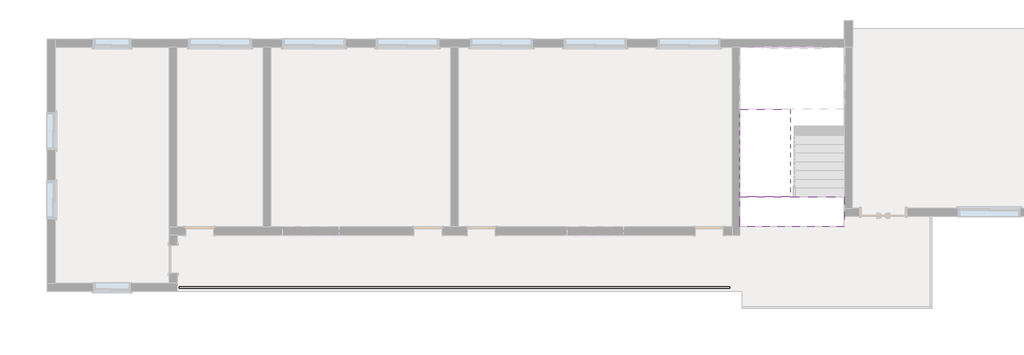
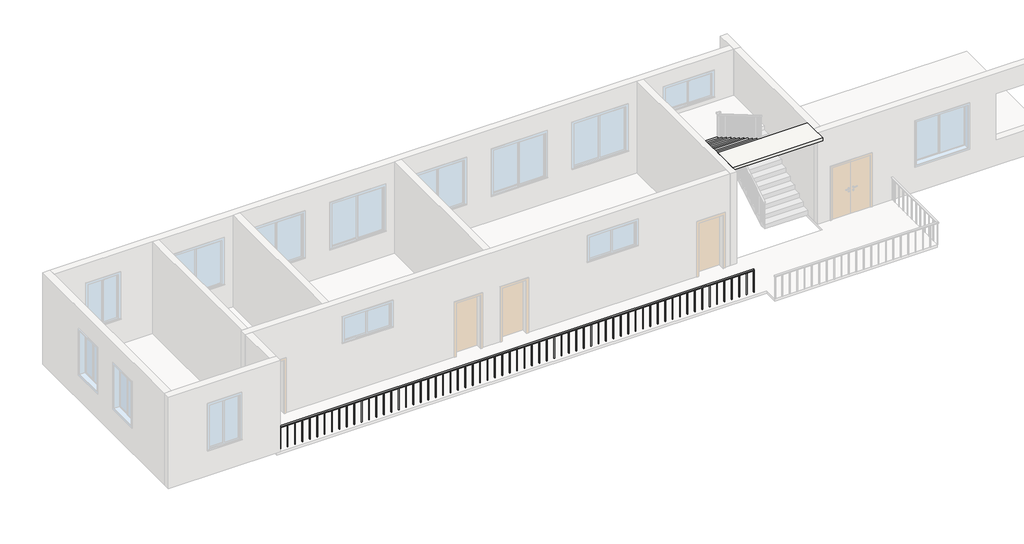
# One storey, part 2 of 3: 1 railing, 1 slab, 1 stair flight.
"""IFC4 building model written with IfcOpenShell, lengths in millimetres."""

from ifc_helpers import new_model, si_unit, frame, origin, place, context, project, spatial, polyline, outline, extrude, faceted_brep, element, save

model = new_model("IFC4")

# Units and contexts
model_context = context("Model", 3, world=origin())
ifc_project = project(units=[si_unit("LENGTHUNIT", "METRE", prefix="MILLI")], contexts=[model_context])

# Site, building, storey
site = spatial("IfcSite", under=ifc_project)
building = spatial("IfcBuilding", under=site)
storey = spatial("IfcBuildingStorey", under=building, Name="标高 2", Elevation=3600.0)

# Railing
placement = place(None, origin())
element("IfcRailing", 1, ObjectType="900mm", at=placement, inside=storey, context=model_context, shape_type="SweptSolid", body=[
    extrude(outline(polyline([(-4380.3834175, -6175.9601487), (-4380.3834175, -6125.9601487), (13219.6165825, -6125.9601487), (13219.6165825, -6175.9601487), (-4380.3834175, -6175.9601487)])), frame((0.0, 0.0, 4450.0), z_axis=(0.0, 0.0, 1.0), x_axis=(1.0, 0.0, 0.0)), (0.0, 0.0, 1.0), 50.0),
    extrude(outline(polyline([(12934.6165825, -6160.9601487), (12934.6165825, -6140.9601487), (12954.6165825, -6140.9601487), (12954.6165825, -6160.9601487), (12934.6165825, -6160.9601487)])), frame((0.0, 0.0, 3600.0), z_axis=(0.0, 0.0, 1.0), x_axis=(1.0, 0.0, 0.0)), (0.0, 0.0, 1.0), 850.0),
    extrude(outline(polyline([(12659.6165825, -6160.9601487), (12659.6165825, -6140.9601487), (12679.6165825, -6140.9601487), (12679.6165825, -6160.9601487), (12659.6165825, -6160.9601487)])), frame((0.0, 0.0, 3600.0), z_axis=(0.0, 0.0, 1.0), x_axis=(1.0, 0.0, 0.0)), (0.0, 0.0, 1.0), 850.0),
    extrude(outline(polyline([(12384.6165825, -6160.9601487), (12384.6165825, -6140.9601487), (12404.6165825, -6140.9601487), (12404.6165825, -6160.9601487), (12384.6165825, -6160.9601487)])), frame((0.0, 0.0, 3600.0), z_axis=(0.0, 0.0, 1.0), x_axis=(1.0, 0.0, 0.0)), (0.0, 0.0, 1.0), 850.0),
    extrude(outline(polyline([(12109.6165825, -6160.9601487), (12109.6165825, -6140.9601487), (12129.6165825, -6140.9601487), (12129.6165825, -6160.9601487), (12109.6165825, -6160.9601487)])), frame((0.0, 0.0, 3600.0), z_axis=(0.0, 0.0, 1.0), x_axis=(1.0, 0.0, 0.0)), (0.0, 0.0, 1.0), 850.0),
    extrude(outline(polyline([(11834.6165825, -6160.9601487), (11834.6165825, -6140.9601487), (11854.6165825, -6140.9601487), (11854.6165825, -6160.9601487), (11834.6165825, -6160.9601487)])), frame((0.0, 0.0, 3600.0), z_axis=(0.0, 0.0, 1.0), x_axis=(1.0, 0.0, 0.0)), (0.0, 0.0, 1.0), 850.0),
    extrude(outline(polyline([(11559.6165825, -6160.9601487), (11559.6165825, -6140.9601487), (11579.6165825, -6140.9601487), (11579.6165825, -6160.9601487), (11559.6165825, -6160.9601487)])), frame((0.0, 0.0, 3600.0), z_axis=(0.0, 0.0, 1.0), x_axis=(1.0, 0.0, 0.0)), (0.0, 0.0, 1.0), 850.0),
    extrude(outline(polyline([(11284.6165825, -6160.9601487), (11284.6165825, -6140.9601487), (11304.6165825, -6140.9601487), (11304.6165825, -6160.9601487), (11284.6165825, -6160.9601487)])), frame((0.0, 0.0, 3600.0), z_axis=(0.0, 0.0, 1.0), x_axis=(1.0, 0.0, 0.0)), (0.0, 0.0, 1.0), 850.0),
    extrude(outline(polyline([(11009.6165825, -6160.9601487), (11009.6165825, -6140.9601487), (11029.6165825, -6140.9601487), (11029.6165825, -6160.9601487), (11009.6165825, -6160.9601487)])), frame((0.0, 0.0, 3600.0), z_axis=(0.0, 0.0, 1.0), x_axis=(1.0, 0.0, 0.0)), (0.0, 0.0, 1.0), 850.0),
    extrude(outline(polyline([(10734.6165825, -6160.9601487), (10734.6165825, -6140.9601487), (10754.6165825, -6140.9601487), (10754.6165825, -6160.9601487), (10734.6165825, -6160.9601487)])), frame((0.0, 0.0, 3600.0), z_axis=(0.0, 0.0, 1.0), x_axis=(1.0, 0.0, 0.0)), (0.0, 0.0, 1.0), 850.0),
    extrude(outline(polyline([(10459.6165825, -6160.9601487), (10459.6165825, -6140.9601487), (10479.6165825, -6140.9601487), (10479.6165825, -6160.9601487), (10459.6165825, -6160.9601487)])), frame((0.0, 0.0, 3600.0), z_axis=(0.0, 0.0, 1.0), x_axis=(1.0, 0.0, 0.0)), (0.0, 0.0, 1.0), 850.0),
    extrude(outline(polyline([(10184.6165825, -6160.9601487), (10184.6165825, -6140.9601487), (10204.6165825, -6140.9601487), (10204.6165825, -6160.9601487), (10184.6165825, -6160.9601487)])), frame((0.0, 0.0, 3600.0), z_axis=(0.0, 0.0, 1.0), x_axis=(1.0, 0.0, 0.0)), (0.0, 0.0, 1.0), 850.0),
    extrude(outline(polyline([(9909.6165825, -6160.9601487), (9909.6165825, -6140.9601487), (9929.6165825, -6140.9601487), (9929.6165825, -6160.9601487), (9909.6165825, -6160.9601487)])), frame((0.0, 0.0, 3600.0), z_axis=(0.0, 0.0, 1.0), x_axis=(1.0, 0.0, 0.0)), (0.0, 0.0, 1.0), 850.0),
    extrude(outline(polyline([(9634.6165825, -6160.9601487), (9634.6165825, -6140.9601487), (9654.6165825, -6140.9601487), (9654.6165825, -6160.9601487), (9634.6165825, -6160.9601487)])), frame((0.0, 0.0, 3600.0), z_axis=(0.0, 0.0, 1.0), x_axis=(1.0, 0.0, 0.0)), (0.0, 0.0, 1.0), 850.0),
    extrude(outline(polyline([(9359.6165825, -6160.9601487), (9359.6165825, -6140.9601487), (9379.6165825, -6140.9601487), (9379.6165825, -6160.9601487), (9359.6165825, -6160.9601487)])), frame((0.0, 0.0, 3600.0), z_axis=(0.0, 0.0, 1.0), x_axis=(1.0, 0.0, 0.0)), (0.0, 0.0, 1.0), 850.0),
    extrude(outline(polyline([(9084.6165825, -6160.9601487), (9084.6165825, -6140.9601487), (9104.6165825, -6140.9601487), (9104.6165825, -6160.9601487), (9084.6165825, -6160.9601487)])), frame((0.0, 0.0, 3600.0), z_axis=(0.0, 0.0, 1.0), x_axis=(1.0, 0.0, 0.0)), (0.0, 0.0, 1.0), 850.0),
    extrude(outline(polyline([(8809.6165825, -6160.9601487), (8809.6165825, -6140.9601487), (8829.6165825, -6140.9601487), (8829.6165825, -6160.9601487), (8809.6165825, -6160.9601487)])), frame((0.0, 0.0, 3600.0), z_axis=(0.0, 0.0, 1.0), x_axis=(1.0, 0.0, 0.0)), (0.0, 0.0, 1.0), 850.0),
    extrude(outline(polyline([(8534.6165825, -6160.9601487), (8534.6165825, -6140.9601487), (8554.6165825, -6140.9601487), (8554.6165825, -6160.9601487), (8534.6165825, -6160.9601487)])), frame((0.0, 0.0, 3600.0), z_axis=(0.0, 0.0, 1.0), x_axis=(1.0, 0.0, 0.0)), (0.0, 0.0, 1.0), 850.0),
    extrude(outline(polyline([(8259.6165825, -6160.9601487), (8259.6165825, -6140.9601487), (8279.6165825, -6140.9601487), (8279.6165825, -6160.9601487), (8259.6165825, -6160.9601487)])), frame((0.0, 0.0, 3600.0), z_axis=(0.0, 0.0, 1.0), x_axis=(1.0, 0.0, 0.0)), (0.0, 0.0, 1.0), 850.0),
    extrude(outline(polyline([(7984.6165825, -6160.9601487), (7984.6165825, -6140.9601487), (8004.6165825, -6140.9601487), (8004.6165825, -6160.9601487), (7984.6165825, -6160.9601487)])), frame((0.0, 0.0, 3600.0), z_axis=(0.0, 0.0, 1.0), x_axis=(1.0, 0.0, 0.0)), (0.0, 0.0, 1.0), 850.0),
    extrude(outline(polyline([(7709.6165825, -6160.9601487), (7709.6165825, -6140.9601487), (7729.6165825, -6140.9601487), (7729.6165825, -6160.9601487), (7709.6165825, -6160.9601487)])), frame((0.0, 0.0, 3600.0), z_axis=(0.0, 0.0, 1.0), x_axis=(1.0, 0.0, 0.0)), (0.0, 0.0, 1.0), 850.0),
    extrude(outline(polyline([(7434.6165825, -6160.9601487), (7434.6165825, -6140.9601487), (7454.6165825, -6140.9601487), (7454.6165825, -6160.9601487), (7434.6165825, -6160.9601487)])), frame((0.0, 0.0, 3600.0), z_axis=(0.0, 0.0, 1.0), x_axis=(1.0, 0.0, 0.0)), (0.0, 0.0, 1.0), 850.0),
    extrude(outline(polyline([(7159.6165825, -6160.9601487), (7159.6165825, -6140.9601487), (7179.6165825, -6140.9601487), (7179.6165825, -6160.9601487), (7159.6165825, -6160.9601487)])), frame((0.0, 0.0, 3600.0), z_axis=(0.0, 0.0, 1.0), x_axis=(1.0, 0.0, 0.0)), (0.0, 0.0, 1.0), 850.0),
    extrude(outline(polyline([(6884.6165825, -6160.9601487), (6884.6165825, -6140.9601487), (6904.6165825, -6140.9601487), (6904.6165825, -6160.9601487), (6884.6165825, -6160.9601487)])), frame((0.0, 0.0, 3600.0), z_axis=(0.0, 0.0, 1.0), x_axis=(1.0, 0.0, 0.0)), (0.0, 0.0, 1.0), 850.0),
    extrude(outline(polyline([(6609.6165825, -6160.9601487), (6609.6165825, -6140.9601487), (6629.6165825, -6140.9601487), (6629.6165825, -6160.9601487), (6609.6165825, -6160.9601487)])), frame((0.0, 0.0, 3600.0), z_axis=(0.0, 0.0, 1.0), x_axis=(1.0, 0.0, 0.0)), (0.0, 0.0, 1.0), 850.0),
    extrude(outline(polyline([(6334.6165825, -6160.9601487), (6334.6165825, -6140.9601487), (6354.6165825, -6140.9601487), (6354.6165825, -6160.9601487), (6334.6165825, -6160.9601487)])), frame((0.0, 0.0, 3600.0), z_axis=(0.0, 0.0, 1.0), x_axis=(1.0, 0.0, 0.0)), (0.0, 0.0, 1.0), 850.0),
    extrude(outline(polyline([(6059.6165825, -6160.9601487), (6059.6165825, -6140.9601487), (6079.6165825, -6140.9601487), (6079.6165825, -6160.9601487), (6059.6165825, -6160.9601487)])), frame((0.0, 0.0, 3600.0), z_axis=(0.0, 0.0, 1.0), x_axis=(1.0, 0.0, 0.0)), (0.0, 0.0, 1.0), 850.0),
    extrude(outline(polyline([(5784.6165825, -6160.9601487), (5784.6165825, -6140.9601487), (5804.6165825, -6140.9601487), (5804.6165825, -6160.9601487), (5784.6165825, -6160.9601487)])), frame((0.0, 0.0, 3600.0), z_axis=(0.0, 0.0, 1.0), x_axis=(1.0, 0.0, 0.0)), (0.0, 0.0, 1.0), 850.0),
    extrude(outline(polyline([(5509.6165825, -6160.9601487), (5509.6165825, -6140.9601487), (5529.6165825, -6140.9601487), (5529.6165825, -6160.9601487), (5509.6165825, -6160.9601487)])), frame((0.0, 0.0, 3600.0), z_axis=(0.0, 0.0, 1.0), x_axis=(1.0, 0.0, 0.0)), (0.0, 0.0, 1.0), 850.0),
    extrude(outline(polyline([(5234.6165825, -6160.9601487), (5234.6165825, -6140.9601487), (5254.6165825, -6140.9601487), (5254.6165825, -6160.9601487), (5234.6165825, -6160.9601487)])), frame((0.0, 0.0, 3600.0), z_axis=(0.0, 0.0, 1.0), x_axis=(1.0, 0.0, 0.0)), (0.0, 0.0, 1.0), 850.0),
    extrude(outline(polyline([(4959.6165825, -6160.9601487), (4959.6165825, -6140.9601487), (4979.6165825, -6140.9601487), (4979.6165825, -6160.9601487), (4959.6165825, -6160.9601487)])), frame((0.0, 0.0, 3600.0), z_axis=(0.0, 0.0, 1.0), x_axis=(1.0, 0.0, 0.0)), (0.0, 0.0, 1.0), 850.0),
    extrude(outline(polyline([(4684.6165825, -6160.9601487), (4684.6165825, -6140.9601487), (4704.6165825, -6140.9601487), (4704.6165825, -6160.9601487), (4684.6165825, -6160.9601487)])), frame((0.0, 0.0, 3600.0), z_axis=(0.0, 0.0, 1.0), x_axis=(1.0, 0.0, 0.0)), (0.0, 0.0, 1.0), 850.0),
    extrude(outline(polyline([(4409.6165825, -6160.9601487), (4409.6165825, -6140.9601487), (4429.6165825, -6140.9601487), (4429.6165825, -6160.9601487), (4409.6165825, -6160.9601487)])), frame((0.0, 0.0, 3600.0), z_axis=(0.0, 0.0, 1.0), x_axis=(1.0, 0.0, 0.0)), (0.0, 0.0, 1.0), 850.0),
    extrude(outline(polyline([(4134.6165825, -6160.9601487), (4134.6165825, -6140.9601487), (4154.6165825, -6140.9601487), (4154.6165825, -6160.9601487), (4134.6165825, -6160.9601487)])), frame((0.0, 0.0, 3600.0), z_axis=(0.0, 0.0, 1.0), x_axis=(1.0, 0.0, 0.0)), (0.0, 0.0, 1.0), 850.0),
    extrude(outline(polyline([(3859.6165825, -6160.9601487), (3859.6165825, -6140.9601487), (3879.6165825, -6140.9601487), (3879.6165825, -6160.9601487), (3859.6165825, -6160.9601487)])), frame((0.0, 0.0, 3600.0), z_axis=(0.0, 0.0, 1.0), x_axis=(1.0, 0.0, 0.0)), (0.0, 0.0, 1.0), 850.0),
    extrude(outline(polyline([(3584.6165825, -6160.9601487), (3584.6165825, -6140.9601487), (3604.6165825, -6140.9601487), (3604.6165825, -6160.9601487), (3584.6165825, -6160.9601487)])), frame((0.0, 0.0, 3600.0), z_axis=(0.0, 0.0, 1.0), x_axis=(1.0, 0.0, 0.0)), (0.0, 0.0, 1.0), 850.0),
    extrude(outline(polyline([(3309.6165825, -6160.9601487), (3309.6165825, -6140.9601487), (3329.6165825, -6140.9601487), (3329.6165825, -6160.9601487), (3309.6165825, -6160.9601487)])), frame((0.0, 0.0, 3600.0), z_axis=(0.0, 0.0, 1.0), x_axis=(1.0, 0.0, 0.0)), (0.0, 0.0, 1.0), 850.0),
    extrude(outline(polyline([(3034.6165825, -6160.9601487), (3034.6165825, -6140.9601487), (3054.6165825, -6140.9601487), (3054.6165825, -6160.9601487), (3034.6165825, -6160.9601487)])), frame((0.0, 0.0, 3600.0), z_axis=(0.0, 0.0, 1.0), x_axis=(1.0, 0.0, 0.0)), (0.0, 0.0, 1.0), 850.0),
    extrude(outline(polyline([(2759.6165825, -6160.9601487), (2759.6165825, -6140.9601487), (2779.6165825, -6140.9601487), (2779.6165825, -6160.9601487), (2759.6165825, -6160.9601487)])), frame((0.0, 0.0, 3600.0), z_axis=(0.0, 0.0, 1.0), x_axis=(1.0, 0.0, 0.0)), (0.0, 0.0, 1.0), 850.0),
    extrude(outline(polyline([(2484.6165825, -6160.9601487), (2484.6165825, -6140.9601487), (2504.6165825, -6140.9601487), (2504.6165825, -6160.9601487), (2484.6165825, -6160.9601487)])), frame((0.0, 0.0, 3600.0), z_axis=(0.0, 0.0, 1.0), x_axis=(1.0, 0.0, 0.0)), (0.0, 0.0, 1.0), 850.0),
    extrude(outline(polyline([(2209.6165825, -6160.9601487), (2209.6165825, -6140.9601487), (2229.6165825, -6140.9601487), (2229.6165825, -6160.9601487), (2209.6165825, -6160.9601487)])), frame((0.0, 0.0, 3600.0), z_axis=(0.0, 0.0, 1.0), x_axis=(1.0, 0.0, 0.0)), (0.0, 0.0, 1.0), 850.0),
    extrude(outline(polyline([(1934.6165825, -6160.9601487), (1934.6165825, -6140.9601487), (1954.6165825, -6140.9601487), (1954.6165825, -6160.9601487), (1934.6165825, -6160.9601487)])), frame((0.0, 0.0, 3600.0), z_axis=(0.0, 0.0, 1.0), x_axis=(1.0, 0.0, 0.0)), (0.0, 0.0, 1.0), 850.0),
    extrude(outline(polyline([(1659.6165825, -6160.9601487), (1659.6165825, -6140.9601487), (1679.6165825, -6140.9601487), (1679.6165825, -6160.9601487), (1659.6165825, -6160.9601487)])), frame((0.0, 0.0, 3600.0), z_axis=(0.0, 0.0, 1.0), x_axis=(1.0, 0.0, 0.0)), (0.0, 0.0, 1.0), 850.0),
    extrude(outline(polyline([(1384.6165825, -6160.9601487), (1384.6165825, -6140.9601487), (1404.6165825, -6140.9601487), (1404.6165825, -6160.9601487), (1384.6165825, -6160.9601487)])), frame((0.0, 0.0, 3600.0), z_axis=(0.0, 0.0, 1.0), x_axis=(1.0, 0.0, 0.0)), (0.0, 0.0, 1.0), 850.0),
    extrude(outline(polyline([(1109.6165825, -6160.9601487), (1109.6165825, -6140.9601487), (1129.6165825, -6140.9601487), (1129.6165825, -6160.9601487), (1109.6165825, -6160.9601487)])), frame((0.0, 0.0, 3600.0), z_axis=(0.0, 0.0, 1.0), x_axis=(1.0, 0.0, 0.0)), (0.0, 0.0, 1.0), 850.0),
    extrude(outline(polyline([(834.6165825, -6160.9601487), (834.6165825, -6140.9601487), (854.6165825, -6140.9601487), (854.6165825, -6160.9601487), (834.6165825, -6160.9601487)])), frame((0.0, 0.0, 3600.0), z_axis=(0.0, 0.0, 1.0), x_axis=(1.0, 0.0, 0.0)), (0.0, 0.0, 1.0), 850.0),
    extrude(outline(polyline([(559.6165825, -6160.9601487), (559.6165825, -6140.9601487), (579.6165825, -6140.9601487), (579.6165825, -6160.9601487), (559.6165825, -6160.9601487)])), frame((0.0, 0.0, 3600.0), z_axis=(0.0, 0.0, 1.0), x_axis=(1.0, 0.0, 0.0)), (0.0, 0.0, 1.0), 850.0),
    extrude(outline(polyline([(284.6165825, -6160.9601487), (284.6165825, -6140.9601487), (304.6165825, -6140.9601487), (304.6165825, -6160.9601487), (284.6165825, -6160.9601487)])), frame((0.0, 0.0, 3600.0), z_axis=(0.0, 0.0, 1.0), x_axis=(1.0, 0.0, 0.0)), (0.0, 0.0, 1.0), 850.0),
    extrude(outline(polyline([(9.6165825, -6160.9601487), (9.6165825, -6140.9601487), (29.6165825, -6140.9601487), (29.6165825, -6160.9601487), (9.6165825, -6160.9601487)])), frame((0.0, 0.0, 3600.0), z_axis=(0.0, 0.0, 1.0), x_axis=(1.0, 0.0, 0.0)), (0.0, 0.0, 1.0), 850.0),
    extrude(outline(polyline([(-265.3834175, -6160.9601487), (-265.3834175, -6140.9601487), (-245.3834175, -6140.9601487), (-245.3834175, -6160.9601487), (-265.3834175, -6160.9601487)])), frame((0.0, 0.0, 3600.0), z_axis=(0.0, 0.0, 1.0), x_axis=(1.0, 0.0, 0.0)), (0.0, 0.0, 1.0), 850.0),
    extrude(outline(polyline([(-540.3834175, -6160.9601487), (-540.3834175, -6140.9601487), (-520.3834175, -6140.9601487), (-520.3834175, -6160.9601487), (-540.3834175, -6160.9601487)])), frame((0.0, 0.0, 3600.0), z_axis=(0.0, 0.0, 1.0), x_axis=(1.0, 0.0, 0.0)), (0.0, 0.0, 1.0), 850.0),
    extrude(outline(polyline([(-815.3834175, -6160.9601487), (-815.3834175, -6140.9601487), (-795.3834175, -6140.9601487), (-795.3834175, -6160.9601487), (-815.3834175, -6160.9601487)])), frame((0.0, 0.0, 3600.0), z_axis=(0.0, 0.0, 1.0), x_axis=(1.0, 0.0, 0.0)), (0.0, 0.0, 1.0), 850.0),
    extrude(outline(polyline([(-1090.3834175, -6160.9601487), (-1090.3834175, -6140.9601487), (-1070.3834175, -6140.9601487), (-1070.3834175, -6160.9601487), (-1090.3834175, -6160.9601487)])), frame((0.0, 0.0, 3600.0), z_axis=(0.0, 0.0, 1.0), x_axis=(1.0, 0.0, 0.0)), (0.0, 0.0, 1.0), 850.0),
    extrude(outline(polyline([(-1365.3834175, -6160.9601487), (-1365.3834175, -6140.9601487), (-1345.3834175, -6140.9601487), (-1345.3834175, -6160.9601487), (-1365.3834175, -6160.9601487)])), frame((0.0, 0.0, 3600.0), z_axis=(0.0, 0.0, 1.0), x_axis=(1.0, 0.0, 0.0)), (0.0, 0.0, 1.0), 850.0),
    extrude(outline(polyline([(-1640.3834175, -6160.9601487), (-1640.3834175, -6140.9601487), (-1620.3834175, -6140.9601487), (-1620.3834175, -6160.9601487), (-1640.3834175, -6160.9601487)])), frame((0.0, 0.0, 3600.0), z_axis=(0.0, 0.0, 1.0), x_axis=(1.0, 0.0, 0.0)), (0.0, 0.0, 1.0), 850.0),
    extrude(outline(polyline([(-1915.3834175, -6160.9601487), (-1915.3834175, -6140.9601487), (-1895.3834175, -6140.9601487), (-1895.3834175, -6160.9601487), (-1915.3834175, -6160.9601487)])), frame((0.0, 0.0, 3600.0), z_axis=(0.0, 0.0, 1.0), x_axis=(1.0, 0.0, 0.0)), (0.0, 0.0, 1.0), 850.0),
    extrude(outline(polyline([(-2190.3834175, -6160.9601487), (-2190.3834175, -6140.9601487), (-2170.3834175, -6140.9601487), (-2170.3834175, -6160.9601487), (-2190.3834175, -6160.9601487)])), frame((0.0, 0.0, 3600.0), z_axis=(0.0, 0.0, 1.0), x_axis=(1.0, 0.0, 0.0)), (0.0, 0.0, 1.0), 850.0),
    extrude(outline(polyline([(-2465.3834175, -6160.9601487), (-2465.3834175, -6140.9601487), (-2445.3834175, -6140.9601487), (-2445.3834175, -6160.9601487), (-2465.3834175, -6160.9601487)])), frame((0.0, 0.0, 3600.0), z_axis=(0.0, 0.0, 1.0), x_axis=(1.0, 0.0, 0.0)), (0.0, 0.0, 1.0), 850.0),
    extrude(outline(polyline([(-2740.3834175, -6160.9601487), (-2740.3834175, -6140.9601487), (-2720.3834175, -6140.9601487), (-2720.3834175, -6160.9601487), (-2740.3834175, -6160.9601487)])), frame((0.0, 0.0, 3600.0), z_axis=(0.0, 0.0, 1.0), x_axis=(1.0, 0.0, 0.0)), (0.0, 0.0, 1.0), 850.0),
    extrude(outline(polyline([(-3015.3834175, -6160.9601487), (-3015.3834175, -6140.9601487), (-2995.3834175, -6140.9601487), (-2995.3834175, -6160.9601487), (-3015.3834175, -6160.9601487)])), frame((0.0, 0.0, 3600.0), z_axis=(0.0, 0.0, 1.0), x_axis=(1.0, 0.0, 0.0)), (0.0, 0.0, 1.0), 850.0),
    extrude(outline(polyline([(-3290.3834175, -6160.9601487), (-3290.3834175, -6140.9601487), (-3270.3834175, -6140.9601487), (-3270.3834175, -6160.9601487), (-3290.3834175, -6160.9601487)])), frame((0.0, 0.0, 3600.0), z_axis=(0.0, 0.0, 1.0), x_axis=(1.0, 0.0, 0.0)), (0.0, 0.0, 1.0), 850.0),
    extrude(outline(polyline([(-3565.3834175, -6160.9601487), (-3565.3834175, -6140.9601487), (-3545.3834175, -6140.9601487), (-3545.3834175, -6160.9601487), (-3565.3834175, -6160.9601487)])), frame((0.0, 0.0, 3600.0), z_axis=(0.0, 0.0, 1.0), x_axis=(1.0, 0.0, 0.0)), (0.0, 0.0, 1.0), 850.0),
    extrude(outline(polyline([(-3840.3834175, -6160.9601487), (-3840.3834175, -6140.9601487), (-3820.3834175, -6140.9601487), (-3820.3834175, -6160.9601487), (-3840.3834175, -6160.9601487)])), frame((0.0, 0.0, 3600.0), z_axis=(0.0, 0.0, 1.0), x_axis=(1.0, 0.0, 0.0)), (0.0, 0.0, 1.0), 850.0),
    extrude(outline(polyline([(-4115.3834175, -6160.9601487), (-4115.3834175, -6140.9601487), (-4095.3834175, -6140.9601487), (-4095.3834175, -6160.9601487), (-4115.3834175, -6160.9601487)])), frame((0.0, 0.0, 3600.0), z_axis=(0.0, 0.0, 1.0), x_axis=(1.0, 0.0, 0.0)), (0.0, 0.0, 1.0), 850.0),
    extrude(outline(polyline([(13199.6165825, -6160.9601487), (13199.6165825, -6140.9601487), (13219.6165825, -6140.9601487), (13219.6165825, -6160.9601487), (13199.6165825, -6160.9601487)])), frame((0.0, 0.0, 3600.0), z_axis=(0.0, 0.0, 1.0), x_axis=(1.0, 0.0, 0.0)), (0.0, 0.0, 1.0), 850.0),
    extrude(outline(polyline([(-4380.3834175, -6160.9601487), (-4380.3834175, -6140.9601487), (-4360.3834175, -6140.9601487), (-4360.3834175, -6160.9601487), (-4380.3834175, -6160.9601487)])), frame((0.0, 0.0, 3600.0), z_axis=(0.0, 0.0, 1.0), x_axis=(1.0, 0.0, 0.0)), (0.0, 0.0, 1.0), 850.0),
])

# Slab
element("IfcSlab", 2, ObjectType="100mm 厚度", at=placement, inside=storey, context=model_context, shape_type="Brep", body=[
    faceted_brep([(15154.6165825, -3250.9601487, 7200.0), (13539.6165825, -3250.9601487, 7200.0), (13539.6165825, -3558.0383721, 7200.0), (13539.6165825, -4220.9601487, 7200.0), (16889.6165825, -4220.9601487, 7200.0), (16889.6165825, -3250.9601487, 7200.0), (16889.6165825, -4220.9601487, 7100.0), (16889.6165825, -3250.9601487, 7100.0), (13539.6165825, -3250.9601487, 7036.3636364), (13539.6165825, -3250.9601487, 6920.5387006), (13539.6165825, -3558.0383721, 7100.0), (13539.6165825, -4220.9601487, 7100.0), (15154.6165825, -3558.0383721, 7100.0), (15154.6165825, -3250.9601487, 7100.0), (15154.6165825, -3250.9601487, 7036.3636364), (15154.6165825, -3250.9601487, 6920.5387006)], [[[0, 1, 2, 3, 4, 5]], [[5, 4, 6, 7]], [[1, 8, 9, 10, 11, 3, 2]], [[4, 3, 11, 6]], [[10, 12, 13, 7, 6, 11]], [[1, 0, 13, 14, 15, 9, 8]], [[0, 5, 7, 13]], [[12, 10, 9, 15]], [[13, 12, 15, 14]]]),
])

# Stair flight
element("IfcStairFlight", 3, ObjectType="100mm 结构深度", at=placement, inside=storey, context=model_context, shape_type="Brep", body=[
    faceted_brep([(15154.6165825, -450.9601487, 5563.6363636), (13539.6165825, -450.9601487, 5563.6363636), (13539.6165825, -478.0383721, 5563.6363636), (13539.6165825, -730.9601487, 5563.6363636), (15154.6165825, -730.9601487, 5563.6363636), (15154.6165825, -478.0383721, 5563.6363636), (15154.6165825, -730.9601487, 5447.8114278), (15154.6165825, -478.0383721, 5300.0), (15154.6165825, -450.9601487, 5300.0), (13539.6165825, -450.9601487, 5300.0), (13539.6165825, -450.9601487, 5400.0), (13539.6165825, -478.0383721, 5300.0), (13539.6165825, -730.9601487, 5447.8114278), (15154.6165825, -1010.9601487, 5727.2727273), (15154.6165825, -730.9601487, 5727.2727273), (13539.6165825, -730.9601487, 5727.2727273), (13539.6165825, -1010.9601487, 5727.2727273), (15154.6165825, -1010.9601487, 5611.4477915), (13539.6165825, -1010.9601487, 5611.4477915), (15154.6165825, -1290.9601487, 5890.9090909), (15154.6165825, -1010.9601487, 5890.9090909), (13539.6165825, -1010.9601487, 5890.9090909), (13539.6165825, -1290.9601487, 5890.9090909), (15154.6165825, -1290.9601487, 5775.0841551), (13539.6165825, -1290.9601487, 5775.0841551), (15154.6165825, -1570.9601487, 6054.5454545), (15154.6165825, -1290.9601487, 6054.5454545), (13539.6165825, -1290.9601487, 6054.5454545), (13539.6165825, -1570.9601487, 6054.5454545), (15154.6165825, -1570.9601487, 5938.7205187), (13539.6165825, -1570.9601487, 5938.7205187), (15154.6165825, -1850.9601487, 6218.1818182), (15154.6165825, -1570.9601487, 6218.1818182), (13539.6165825, -1570.9601487, 6218.1818182), (13539.6165825, -1850.9601487, 6218.1818182), (15154.6165825, -1850.9601487, 6102.3568824), (13539.6165825, -1850.9601487, 6102.3568824), (15154.6165825, -2130.9601487, 6381.8181818), (15154.6165825, -1850.9601487, 6381.8181818), (13539.6165825, -1850.9601487, 6381.8181818), (13539.6165825, -2130.9601487, 6381.8181818), (15154.6165825, -2130.9601487, 6265.993246), (13539.6165825, -2130.9601487, 6265.993246), (15154.6165825, -2410.9601487, 6545.4545455), (15154.6165825, -2130.9601487, 6545.4545455), (13539.6165825, -2130.9601487, 6545.4545455), (13539.6165825, -2410.9601487, 6545.4545455), (15154.6165825, -2410.9601487, 6429.6296097), (13539.6165825, -2410.9601487, 6429.6296097), (15154.6165825, -2690.9601487, 6709.0909091), (15154.6165825, -2410.9601487, 6709.0909091), (13539.6165825, -2410.9601487, 6709.0909091), (13539.6165825, -2690.9601487, 6709.0909091), (15154.6165825, -2690.9601487, 6593.2659733), (13539.6165825, -2690.9601487, 6593.2659733), (15154.6165825, -2970.9601487, 6872.7272727), (15154.6165825, -2690.9601487, 6872.7272727), (13539.6165825, -2690.9601487, 6872.7272727), (13539.6165825, -2970.9601487, 6872.7272727), (15154.6165825, -2970.9601487, 6756.9023369), (13539.6165825, -2970.9601487, 6756.9023369), (15154.6165825, -3250.9601487, 7036.3636364), (15154.6165825, -2970.9601487, 7036.3636364), (13539.6165825, -2970.9601487, 7036.3636364), (13539.6165825, -3250.9601487, 7036.3636364), (15154.6165825, -3250.9601487, 6920.5387006), (13539.6165825, -3250.9601487, 6920.5387006)], [[[0, 1, 2, 3, 4, 5]], [[4, 6, 7, 8, 0, 5]], [[1, 0, 8, 9, 10]], [[1, 10, 9, 11, 12, 3, 2]], [[13, 14, 15, 16]], [[14, 13, 17, 6, 4]], [[15, 14, 4, 3]], [[16, 15, 3, 12, 18]], [[19, 20, 21, 22]], [[20, 19, 23, 17, 13]], [[21, 20, 13, 16]], [[22, 21, 16, 18, 24]], [[25, 26, 27, 28]], [[26, 25, 29, 23, 19]], [[27, 26, 19, 22]], [[28, 27, 22, 24, 30]], [[31, 32, 33, 34]], [[32, 31, 35, 29, 25]], [[33, 32, 25, 28]], [[34, 33, 28, 30, 36]], [[37, 38, 39, 40]], [[38, 37, 41, 35, 31]], [[39, 38, 31, 34]], [[40, 39, 34, 36, 42]], [[43, 44, 45, 46]], [[44, 43, 47, 41, 37]], [[45, 44, 37, 40]], [[46, 45, 40, 42, 48]], [[49, 50, 51, 52]], [[50, 49, 53, 47, 43]], [[51, 50, 43, 46]], [[52, 51, 46, 48, 54]], [[55, 56, 57, 58]], [[56, 55, 59, 53, 49]], [[57, 56, 49, 52]], [[58, 57, 52, 54, 60]], [[61, 62, 63, 64]], [[62, 61, 65, 59, 55]], [[63, 62, 55, 58]], [[64, 63, 58, 60, 66]], [[61, 64, 66, 65]], [[11, 7, 6, 17, 23, 29, 35, 41, 47, 53, 59, 65, 66, 60, 54, 48, 42, 36, 30, 24, 18, 12]], [[7, 11, 9, 8]]]),
])

save(model, "model.ifc")
